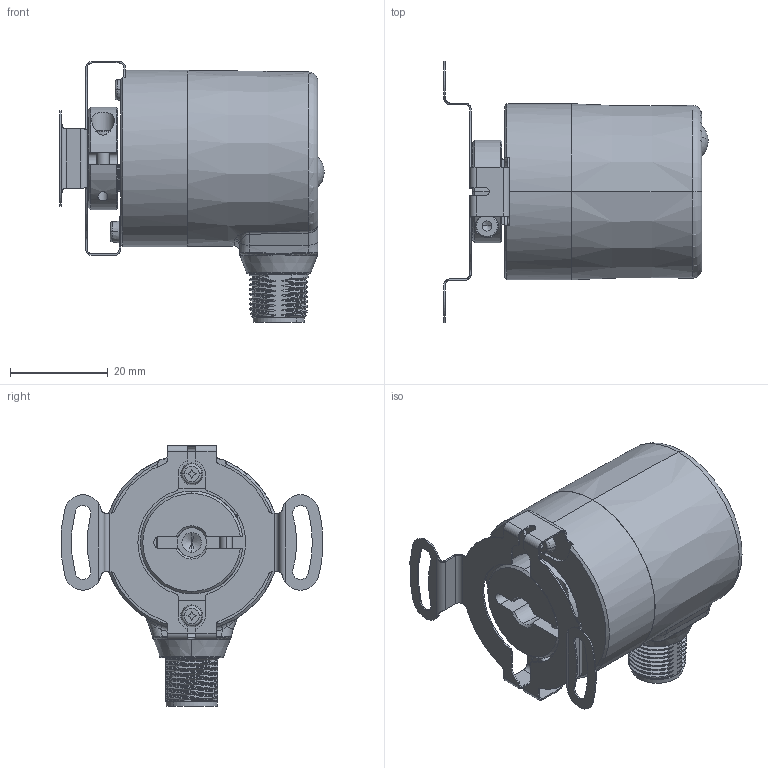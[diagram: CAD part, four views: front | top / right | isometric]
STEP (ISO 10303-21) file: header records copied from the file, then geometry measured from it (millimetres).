
FILE_DESCRIPTION (( 'STEP AP214' ), '1' );
FILE_NAME ('3671.52X4.XXXX.STEP', '2008-09-12T06:59:14', ( 'admin' ), ( 'Fritz Kübler GmbH' ), 'SwSTEP 2.0', 'SolidWorks 2008', '' );
FILE_SCHEMA (( 'AUTOMOTIVE_DESIGN' ));
Length unit declared in the file: millimetre
Products named in the file (1): 3671.52X4.XXXX
Bounding box: 53.99 x 53.5 x 53.3 mm (x, y, z)
Volume: 22796.5 mm3; surface area: 21755.3 mm2
Topology: 10 solids, 10 shells, 898 faces, 2209 edges, 1378 vertices
Faces by surface type: cylinder 283, plane 229, cone 163, bspline 130, torus 87, sphere 6
Entity records: 55807 total; most frequent: CARTESIAN_POINT 25455, ORIENTED_EDGE 4370, DIRECTION 4120, EDGE_CURVE 2185, AXIS2_PLACEMENT_3D 1656, VERTEX_POINT 1378, EDGE_LOOP 989, UNCERTAINTY_MEASURE_WITH_UNIT 909
